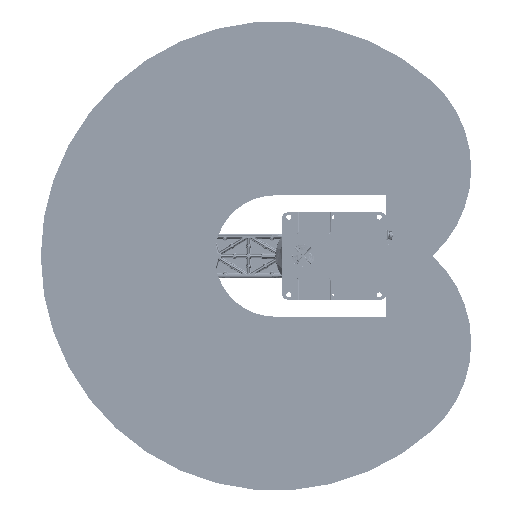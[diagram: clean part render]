
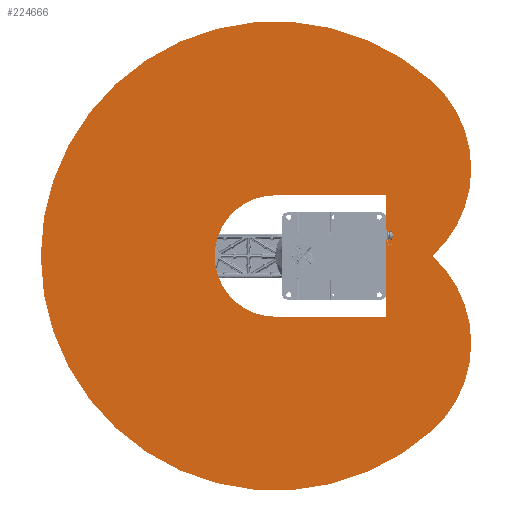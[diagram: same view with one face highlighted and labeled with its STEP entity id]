
A CAD part, front view. The second image highlights one B-rep face of the part: STEP entity #224666.
In plain terms, the highlighted planar face has unit normal (0, -1, 0) as drawn and (0, 0, 1) by its records, which use the part's own axes.
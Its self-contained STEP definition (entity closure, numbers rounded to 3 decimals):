
#13136 = DIRECTION ( 'NONE',  ( 0., 0., 1. ) ) ;
#21590 = EDGE_CURVE ( 'NONE', #864436, #187230, #66016, .T. ) ;
#23476 = VERTEX_POINT ( 'NONE', #247437 ) ;
#24254 = CIRCLE ( 'NONE', #393981, 181.173 ) ;
#40570 = CARTESIAN_POINT ( 'NONE',  ( 0., 0., 200. ) ) ;
#57107 = ORIENTED_EDGE ( 'NONE', *, *, #259726, .F. ) ;
#66016 = LINE ( 'NONE', #309043, #427785 ) ;
#98126 = EDGE_CURVE ( 'NONE', #539139, #886488, #24254, .T. ) ;
#113174 = DIRECTION ( 'NONE',  ( 1., 0., 0. ) ) ;
#124492 = VERTEX_POINT ( 'NONE', #397490 ) ;
#129107 = EDGE_CURVE ( 'NONE', #786973, #864436, #249500, .T. ) ;
#142505 = CARTESIAN_POINT ( 'NONE',  ( 0., 181.173, 200. ) ) ;
#187230 = VERTEX_POINT ( 'NONE', #865356 ) ;
#208502 = ORIENTED_EDGE ( 'NONE', *, *, #404723, .T. ) ;
#209393 = DIRECTION ( 'NONE',  ( 0., 0., -1. ) ) ;
#213787 = CARTESIAN_POINT ( 'NONE',  ( 0., 0., 200. ) ) ;
#215156 = DIRECTION ( 'NONE',  ( 1., 0., 0. ) ) ;
#224666 = ADVANCED_FACE ( 'NONE', ( #644868, #452941 ), #802829, .F. ) ;
#228092 = DIRECTION ( 'NONE',  ( -1., 0., 0. ) ) ;
#247437 = CARTESIAN_POINT ( 'NONE',  ( 468.391, 0., 200. ) ) ;
#249500 = LINE ( 'NONE', #755788, #611373 ) ;
#249699 = EDGE_LOOP ( 'NONE', ( #819787, #383324, #340624, #439810, #57107 ) ) ;
#259726 = EDGE_CURVE ( 'NONE', #886488, #187230, #590482, .T. ) ;
#262658 = VERTEX_POINT ( 'NONE', #679218 ) ;
#267088 = DIRECTION ( 'NONE',  ( 0., 0., 1. ) ) ;
#275453 = AXIS2_PLACEMENT_3D ( 'NONE', #213787, #719088, #286450 ) ;
#286450 = DIRECTION ( 'NONE',  ( 1., 0., 0. ) ) ;
#293078 = ORIENTED_EDGE ( 'NONE', *, *, #656015, .F. ) ;
#309043 = CARTESIAN_POINT ( 'NONE',  ( 330., -181.173, 200. ) ) ;
#312908 = LINE ( 'NONE', #142505, #843489 ) ;
#329623 = VERTEX_POINT ( 'NONE', #486943 ) ;
#340624 = ORIENTED_EDGE ( 'NONE', *, *, #129107, .T. ) ;
#347484 = EDGE_CURVE ( 'NONE', #539139, #786973, #312908, .T. ) ;
#362847 = AXIS2_PLACEMENT_3D ( 'NONE', #445948, #13136, #518618 ) ;
#372738 = CARTESIAN_POINT ( 'NONE',  ( -181.173, 0., 200. ) ) ;
#382147 = DIRECTION ( 'NONE',  ( 0., 0., 1. ) ) ;
#383324 = ORIENTED_EDGE ( 'NONE', *, *, #347484, .T. ) ;
#386083 = EDGE_CURVE ( 'NONE', #329623, #23476, #904809, .T. ) ;
#393981 = AXIS2_PLACEMENT_3D ( 'NONE', #814403, #382147, #886869 ) ;
#396588 = ORIENTED_EDGE ( 'NONE', *, *, #574316, .T. ) ;
#397323 = CIRCLE ( 'NONE', #728599, 350. ) ;
#397490 = CARTESIAN_POINT ( 'NONE',  ( 468.391, 520.201, 200. ) ) ;
#403906 = CARTESIAN_POINT ( 'NONE',  ( 330., 181.173, 200. ) ) ;
#404723 = EDGE_CURVE ( 'NONE', #124492, #262658, #421029, .T. ) ;
#421029 = CIRCLE ( 'NONE', #275453, 700. ) ;
#427785 = VECTOR ( 'NONE', #741599, 1000. ) ;
#439810 = ORIENTED_EDGE ( 'NONE', *, *, #21590, .T. ) ;
#445948 = CARTESIAN_POINT ( 'NONE',  ( 234.196, -260.101, 200. ) ) ;
#452941 = FACE_BOUND ( 'NONE', #249699, .T. ) ;
#486943 = CARTESIAN_POINT ( 'NONE',  ( 468.391, -520.201, 200. ) ) ;
#514252 = ORIENTED_EDGE ( 'NONE', *, *, #386083, .T. ) ;
#515830 = CARTESIAN_POINT ( 'NONE',  ( 234.196, 0., 200. ) ) ;
#518618 = DIRECTION ( 'NONE',  ( 1., 0., 0. ) ) ;
#539139 = VERTEX_POINT ( 'NONE', #892252 ) ;
#546041 = DIRECTION ( 'NONE',  ( 0., 0., 1. ) ) ;
#574316 = EDGE_CURVE ( 'NONE', #262658, #329623, #840846, .T. ) ;
#590482 = CIRCLE ( 'NONE', #851962, 181.173 ) ;
#611373 = VECTOR ( 'NONE', #828131, 1000. ) ;
#642222 = CARTESIAN_POINT ( 'NONE',  ( 234.196, 260.101, 200. ) ) ;
#644868 = FACE_OUTER_BOUND ( 'NONE', #899007, .T. ) ;
#656015 = EDGE_CURVE ( 'NONE', #124492, #23476, #397323, .T. ) ;
#660911 = DIRECTION ( 'NONE',  ( 0., 0., -1. ) ) ;
#679218 = CARTESIAN_POINT ( 'NONE',  ( -700., 0., 200. ) ) ;
#692296 = AXIS2_PLACEMENT_3D ( 'NONE', #40570, #546041, #113174 ) ;
#699865 = CARTESIAN_POINT ( 'NONE',  ( 0., 0., 200. ) ) ;
#714683 = DIRECTION ( 'NONE',  ( -1., 0., 0. ) ) ;
#719088 = DIRECTION ( 'NONE',  ( 0., 0., 1. ) ) ;
#728599 = AXIS2_PLACEMENT_3D ( 'NONE', #642222, #209393, #714683 ) ;
#741599 = DIRECTION ( 'NONE',  ( -1., 0., 0. ) ) ;
#755788 = CARTESIAN_POINT ( 'NONE',  ( 330., 181.173, 200. ) ) ;
#772386 = DIRECTION ( 'NONE',  ( 1., 0., 0. ) ) ;
#786973 = VERTEX_POINT ( 'NONE', #403906 ) ;
#795636 = CARTESIAN_POINT ( 'NONE',  ( 330., -181.173, 200. ) ) ;
#802829 = PLANE ( 'NONE',  #927058 ) ;
#814403 = CARTESIAN_POINT ( 'NONE',  ( 0., 0., 200. ) ) ;
#819787 = ORIENTED_EDGE ( 'NONE', *, *, #98126, .F. ) ;
#828131 = DIRECTION ( 'NONE',  ( 0., -1., 0. ) ) ;
#840846 = CIRCLE ( 'NONE', #692296, 700. ) ;
#843489 = VECTOR ( 'NONE', #215156, 1000. ) ;
#851962 = AXIS2_PLACEMENT_3D ( 'NONE', #699865, #267088, #772386 ) ;
#864436 = VERTEX_POINT ( 'NONE', #795636 ) ;
#865356 = CARTESIAN_POINT ( 'NONE',  ( 0., -181.173, 200. ) ) ;
#886488 = VERTEX_POINT ( 'NONE', #372738 ) ;
#886869 = DIRECTION ( 'NONE',  ( 1., 0., 0. ) ) ;
#892252 = CARTESIAN_POINT ( 'NONE',  ( 0., 181.173, 200. ) ) ;
#899007 = EDGE_LOOP ( 'NONE', ( #293078, #208502, #396588, #514252 ) ) ;
#904809 = CIRCLE ( 'NONE', #362847, 350. ) ;
#927058 = AXIS2_PLACEMENT_3D ( 'NONE', #515830, #660911, #228092 ) ;
